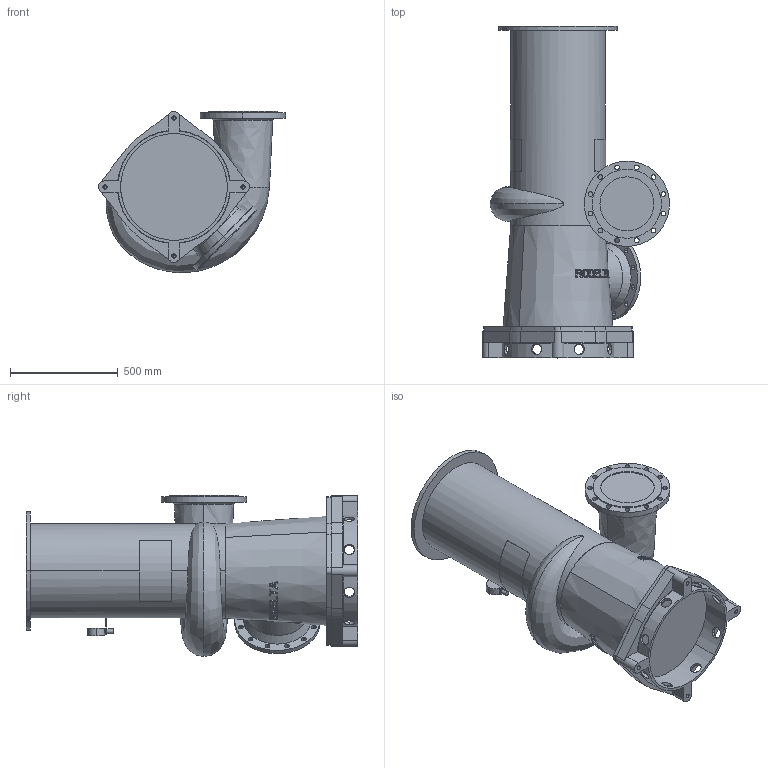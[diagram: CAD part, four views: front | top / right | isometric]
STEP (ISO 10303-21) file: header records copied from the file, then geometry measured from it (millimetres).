
FILE_DESCRIPTION((''),'2;1');
FILE_NAME('8510_ASM','2024-07-30T',('Lyritlocal'),(''),'PRO/ENGINEER BY PARAMETRIC TECHNOLOGY CORPORATION, 2016360','PRO/ENGINEER BY PARAMETRIC TECHNOLOGY CORPORATION, 2016360','');
FILE_SCHEMA(('CONFIG_CONTROL_DESIGN'));
Length unit declared in the file: millimetre
Products named in the file (3): 8510; 8510_VOET; 8510_ASM
Assembly tree (2 placements, depth 2):
  8510_ASM
    8510
    8510_VOET
Bounding box: 867.5 x 1539 x 747.15 mm (x, y, z)
Volume: 297748321.2 mm3; surface area: 4725053.7 mm2
Topology: 2 solids, 6 shells, 542 faces, 1460 edges, 967 vertices
Faces by surface type: plane 343, cylinder 155, cone 34, bspline 6, torus 4
Entity records: 19328 total; most frequent: CARTESIAN_POINT 6085, ORIENTED_EDGE 2888, DIRECTION 2477, EDGE_CURVE 1452, VERTEX_POINT 967, AXIS2_PLACEMENT_3D 961, EDGE_LOOP 659, VECTOR 555
